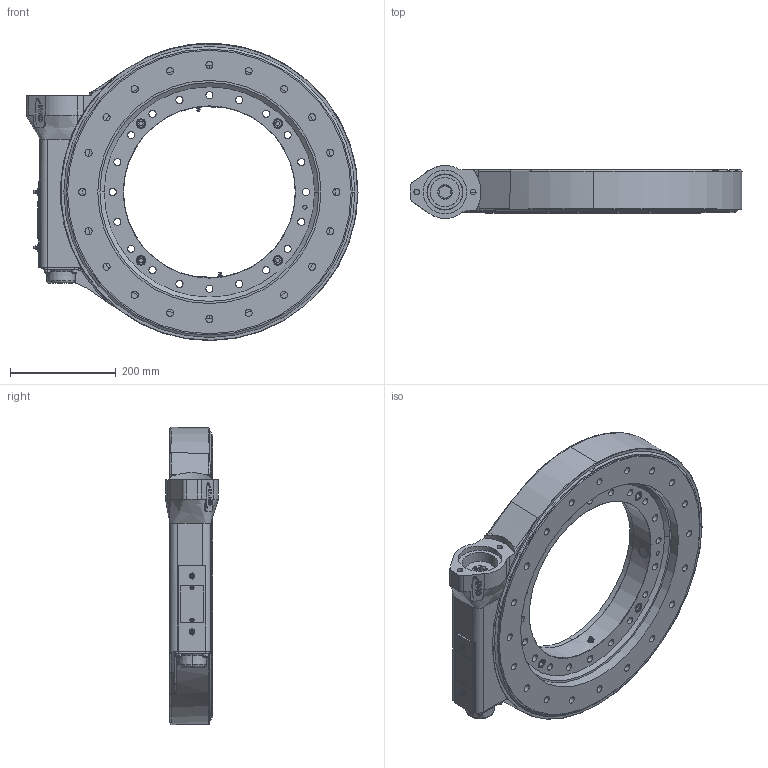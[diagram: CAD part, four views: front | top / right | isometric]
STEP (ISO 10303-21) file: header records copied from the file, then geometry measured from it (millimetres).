
FILE_DESCRIPTION (( 'STEP AP214' ), '1' );
FILE_NAME ('WD-LA 0419-3-06372_ohne Motor_Index 0D.STEP', '2012-01-17T08:22:47', ( '' ), ( '' ), 'SwSTEP 2.0', 'SolidWorks 2011', '' );
FILE_SCHEMA (( 'AUTOMOTIVE_DESIGN' ));
Length unit declared in the file: millimetre
Products named in the file (1): WD-LA 0419-3-06372_ohne Motor_Index 0D
Bounding box: 626.48 x 99.97 x 560.96 mm (x, y, z)
Surface area: 839958.4 mm2 (no closed solid volume)
Topology: 0 solids, 29 shells, 468 faces, 1410 edges, 958 vertices
Faces by surface type: cylinder 214, plane 148, torus 49, cone 34, bspline 23
Entity records: 22729 total; most frequent: CARTESIAN_POINT 4648, DIRECTION 2818, ORIENTED_EDGE 2414, EDGE_CURVE 1409, AXIS2_PLACEMENT_3D 1111, VERTEX_POINT 958, CIRCLE 665, EDGE_LOOP 637
